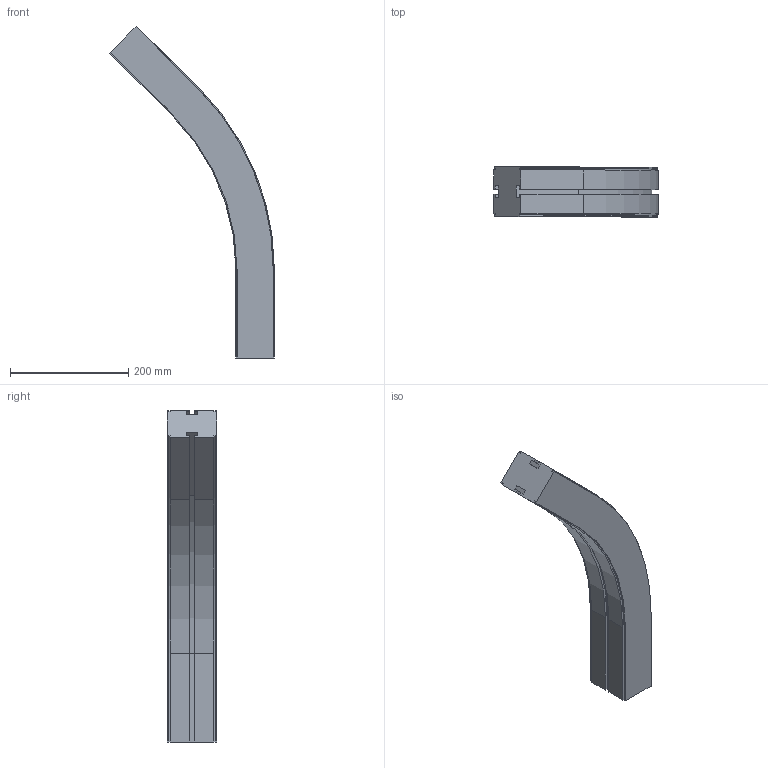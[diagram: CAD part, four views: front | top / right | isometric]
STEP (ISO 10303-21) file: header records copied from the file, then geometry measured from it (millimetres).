
FILE_DESCRIPTION (( 'STEP AP214' ), '1' );
FILE_NAME ('CS SL Horizontaalbocht.65 45° R400.STEP', '2017-02-08T07:35:24', ( '' ), ( '' ), 'SwSTEP 2.0', 'SolidWorks 2016', '' );
FILE_SCHEMA (( 'AUTOMOTIVE_DESIGN' ));
Length unit declared in the file: millimetre
Products named in the file (1): CS SL Horizontaalbocht.65 45° R400
Bounding box: 278.7 x 84 x 561.89 mm (x, y, z)
Volume: 3104347.8 mm3; surface area: 258204.9 mm2
Topology: 1 solids, 1 shells, 98 faces, 272 edges, 176 vertices
Faces by surface type: plane 72, cylinder 18, cone 8
Entity records: 3126 total; most frequent: CARTESIAN_POINT 547, ORIENTED_EDGE 544, DIRECTION 514, EDGE_CURVE 272, LINE 228, VECTOR 228, VERTEX_POINT 176, AXIS2_PLACEMENT_3D 143
